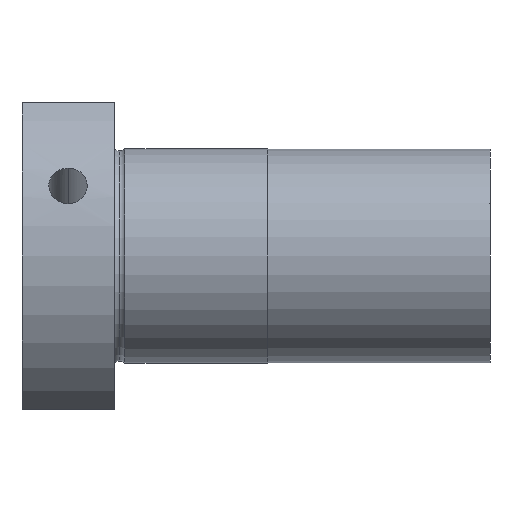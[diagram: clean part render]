
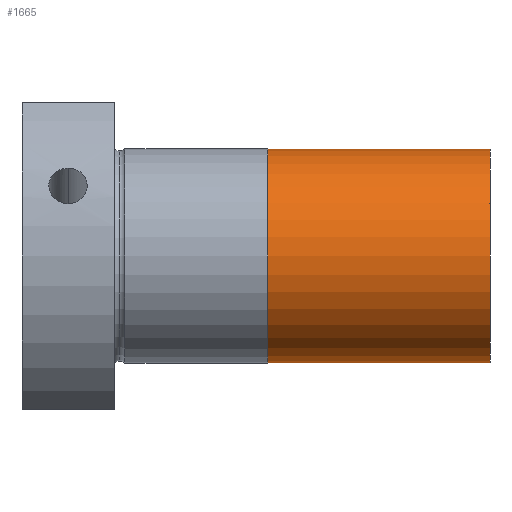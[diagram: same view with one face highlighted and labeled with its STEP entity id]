
A CAD part, front view. The second image highlights one B-rep face of the part: STEP entity #1665.
In plain terms, the highlighted cylindrical face has radius 13.9 mm (diameter 27.8 mm), a partial arc.
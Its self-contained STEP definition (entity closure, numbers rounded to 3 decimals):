
#68 = AXIS2_PLACEMENT_3D ( 'NONE', #2653, #1432, #1783 ) ;
#92 = EDGE_CURVE ( 'NONE', #1615, #2298, #616, .T. ) ;
#138 = DIRECTION ( 'NONE',  ( -1., 0., 0. ) ) ;
#160 = VECTOR ( 'NONE', #1686, 1000. ) ;
#174 = CARTESIAN_POINT ( 'NONE',  ( -100.792, 0., 13.9 ) ) ;
#176 = LINE ( 'NONE', #795, #160 ) ;
#242 = LINE ( 'NONE', #174, #253 ) ;
#253 = VECTOR ( 'NONE', #1657, 1000. ) ;
#388 = CIRCLE ( 'NONE', #1709, 13.9 ) ;
#401 = EDGE_CURVE ( 'NONE', #477, #1107, #388, .T. ) ;
#477 = VERTEX_POINT ( 'NONE', #2239 ) ;
#519 = EDGE_CURVE ( 'NONE', #1107, #2298, #242, .T. ) ;
#616 = CIRCLE ( 'NONE', #68, 13.9 ) ;
#621 = EDGE_CURVE ( 'NONE', #477, #1615, #176, .T. ) ;
#641 = CARTESIAN_POINT ( 'NONE',  ( -2.865, 0., 13.9 ) ) ;
#680 = CARTESIAN_POINT ( 'NONE',  ( -2.865, 0., -13.9 ) ) ;
#682 = CARTESIAN_POINT ( 'NONE',  ( 26.135, 0., 13.9 ) ) ;
#699 = DIRECTION ( 'NONE',  ( -1., 0., 0. ) ) ;
#795 = CARTESIAN_POINT ( 'NONE',  ( -100.792, 0., -13.9 ) ) ;
#918 = DIRECTION ( 'NONE',  ( 0., 0., 1. ) ) ;
#1023 = ORIENTED_EDGE ( 'NONE', *, *, #621, .F. ) ;
#1107 = VERTEX_POINT ( 'NONE', #682 ) ;
#1181 = ORIENTED_EDGE ( 'NONE', *, *, #92, .F. ) ;
#1339 = CYLINDRICAL_SURFACE ( 'NONE', #2011, 13.9 ) ;
#1396 = CARTESIAN_POINT ( 'NONE',  ( 26.135, 0., 0. ) ) ;
#1432 = DIRECTION ( 'NONE',  ( -1., 0., 0. ) ) ;
#1480 = FACE_OUTER_BOUND ( 'NONE', #2018, .T. ) ;
#1554 = CARTESIAN_POINT ( 'NONE',  ( -100.792, 0., 0. ) ) ;
#1615 = VERTEX_POINT ( 'NONE', #680 ) ;
#1623 = DIRECTION ( 'NONE',  ( 0., 0., 1. ) ) ;
#1657 = DIRECTION ( 'NONE',  ( -1., 0., 0. ) ) ;
#1665 = ADVANCED_FACE ( 'NONE', ( #1480 ), #1339, .T. ) ;
#1686 = DIRECTION ( 'NONE',  ( -1., 0., 0. ) ) ;
#1709 = AXIS2_PLACEMENT_3D ( 'NONE', #1396, #138, #1623 ) ;
#1783 = DIRECTION ( 'NONE',  ( 0., 0., 1. ) ) ;
#1913 = ORIENTED_EDGE ( 'NONE', *, *, #519, .T. ) ;
#2011 = AXIS2_PLACEMENT_3D ( 'NONE', #1554, #699, #918 ) ;
#2018 = EDGE_LOOP ( 'NONE', ( #1023, #2101, #1913, #1181 ) ) ;
#2101 = ORIENTED_EDGE ( 'NONE', *, *, #401, .T. ) ;
#2239 = CARTESIAN_POINT ( 'NONE',  ( 26.135, 0., -13.9 ) ) ;
#2298 = VERTEX_POINT ( 'NONE', #641 ) ;
#2653 = CARTESIAN_POINT ( 'NONE',  ( -2.865, 0., 0. ) ) ;
